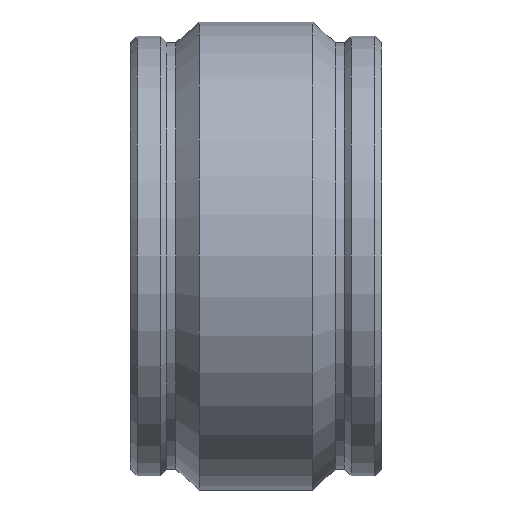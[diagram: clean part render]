
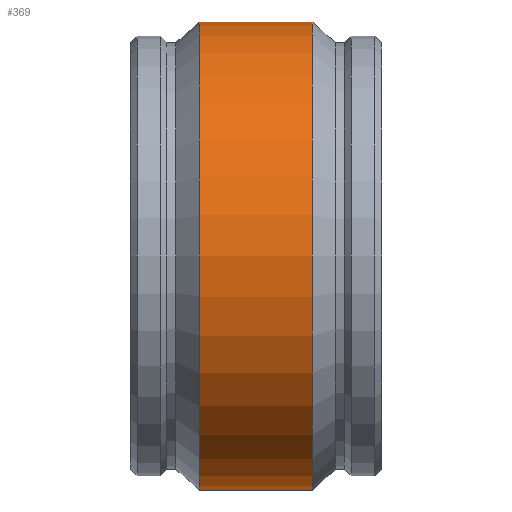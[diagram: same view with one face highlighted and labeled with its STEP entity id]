
A CAD part, front view. The second image highlights one B-rep face of the part: STEP entity #369.
In plain terms, the highlighted cylindrical face has radius 465.963 mm (diameter 931.926 mm), a full revolution.
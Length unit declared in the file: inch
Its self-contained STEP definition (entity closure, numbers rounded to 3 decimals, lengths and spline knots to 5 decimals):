
#17=CYLINDRICAL_SURFACE('',#423,18.345);
#28=LINE('',#646,#44);
#44=VECTOR('',#516,18.345);
#73=FACE_OUTER_BOUND('',#94,.T.);
#94=EDGE_LOOP('',(#281,#282,#283,#284,#285,#286));
#123=CIRCLE('',#421,18.345);
#124=CIRCLE('',#422,18.345);
#125=CIRCLE('',#424,18.345);
#126=CIRCLE('',#425,18.345);
#163=VERTEX_POINT('',#636);
#164=VERTEX_POINT('',#637);
#165=VERTEX_POINT('',#642);
#166=VERTEX_POINT('',#643);
#207=EDGE_CURVE('',#163,#164,#123,.T.);
#208=EDGE_CURVE('',#164,#163,#124,.T.);
#210=EDGE_CURVE('',#165,#166,#125,.T.);
#211=EDGE_CURVE('',#166,#165,#126,.T.);
#212=EDGE_CURVE('',#166,#164,#28,.T.);
#281=ORIENTED_EDGE('',*,*,#210,.F.);
#282=ORIENTED_EDGE('',*,*,#211,.F.);
#283=ORIENTED_EDGE('',*,*,#212,.T.);
#284=ORIENTED_EDGE('',*,*,#208,.T.);
#285=ORIENTED_EDGE('',*,*,#207,.T.);
#286=ORIENTED_EDGE('',*,*,#212,.F.);
#369=ADVANCED_FACE('',(#73),#17,.T.);
#421=AXIS2_PLACEMENT_3D('',#638,#505,#506);
#422=AXIS2_PLACEMENT_3D('',#639,#507,#508);
#423=AXIS2_PLACEMENT_3D('',#641,#510,#511);
#424=AXIS2_PLACEMENT_3D('',#644,#512,#513);
#425=AXIS2_PLACEMENT_3D('',#645,#514,#515);
#505=DIRECTION('center_axis',(1.,0.,0.));
#506=DIRECTION('ref_axis',(0.,0.,-1.));
#507=DIRECTION('center_axis',(1.,0.,0.));
#508=DIRECTION('ref_axis',(0.,0.,-1.));
#510=DIRECTION('center_axis',(1.,0.,0.));
#511=DIRECTION('ref_axis',(0.,1.,0.));
#512=DIRECTION('center_axis',(1.,0.,0.));
#513=DIRECTION('ref_axis',(0.,0.,-1.));
#514=DIRECTION('center_axis',(1.,0.,0.));
#515=DIRECTION('ref_axis',(0.,0.,-1.));
#516=DIRECTION('',(-1.,0.,0.));
#636=CARTESIAN_POINT('',(-4.43525,18.345,0.));
#637=CARTESIAN_POINT('',(-4.43525,-18.345,0.));
#638=CARTESIAN_POINT('Origin',(-4.43525,0.,0.));
#639=CARTESIAN_POINT('Origin',(-4.43525,0.,0.));
#641=CARTESIAN_POINT('Origin',(-0.005,0.,0.));
#642=CARTESIAN_POINT('',(4.42525,18.345,0.));
#643=CARTESIAN_POINT('',(4.42525,-18.345,0.));
#644=CARTESIAN_POINT('Origin',(4.42525,0.,0.));
#645=CARTESIAN_POINT('Origin',(4.42525,0.,0.));
#646=CARTESIAN_POINT('',(-0.005,-18.345,0.));
